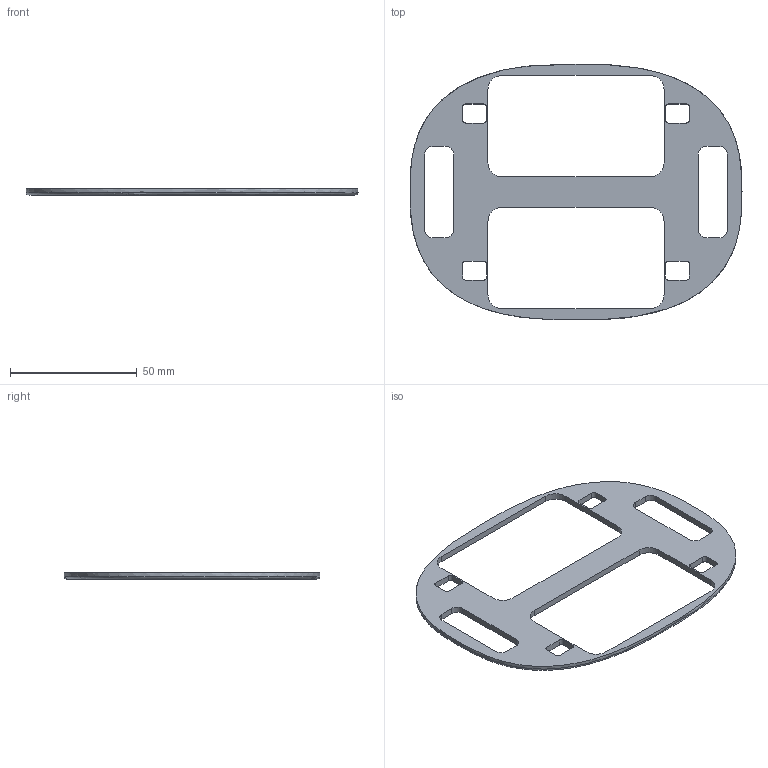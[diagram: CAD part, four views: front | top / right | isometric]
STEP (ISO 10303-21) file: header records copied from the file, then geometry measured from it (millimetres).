
FILE_DESCRIPTION(('Open CASCADE Model'),'2;1');
FILE_NAME('Open CASCADE Shape Model','2026-11-11T21:47:25',('Author'),( 'Open CASCADE'),'Open CASCADE STEP processor 8.0','build123d', 'Unknown');
FILE_SCHEMA(('AUTOMOTIVE_DESIGN { 1 0 10303 214 1 1 1 1 }'));
Length unit declared in the file: millimetre
Products named in the file (1): SOLID
Bounding box: 131 x 100.95 x 2.5 mm (x, y, z)
Volume: 11630.7 mm3; surface area: 11978.9 mm2
Topology: 1 solids, 1 shells, 68 faces, 197 edges, 131 vertices
Faces by surface type: plane 34, cylinder 32, extrusion 1, bspline 1
Entity records: 7238 total; most frequent: CARTESIAN_POINT 3450, DIRECTION 653, ORIENTED_EDGE 394, PCURVE 394, DEFINITIONAL_REPRESENTATION 394, VECTOR 327, LINE 326, EDGE_CURVE 197
